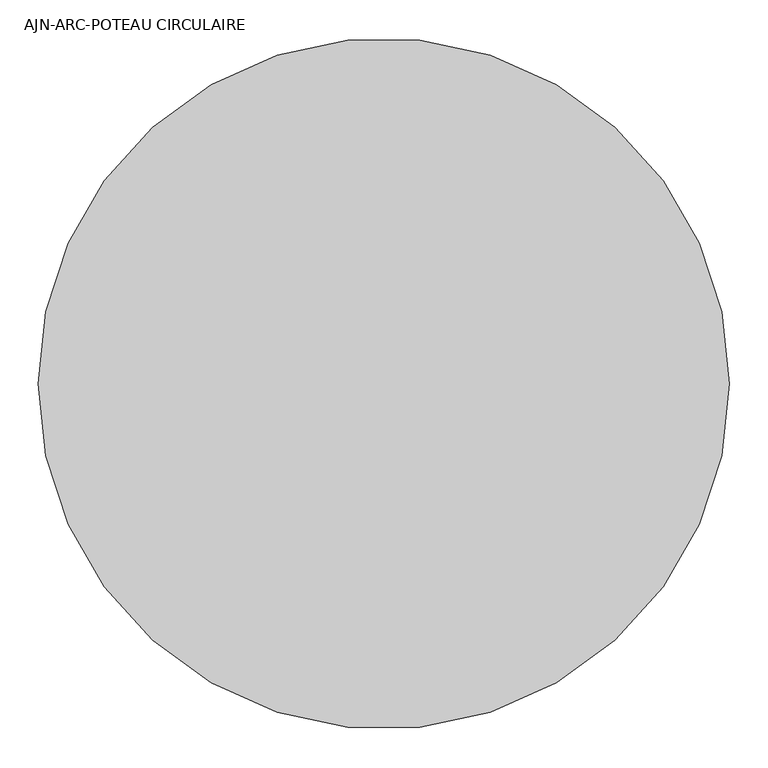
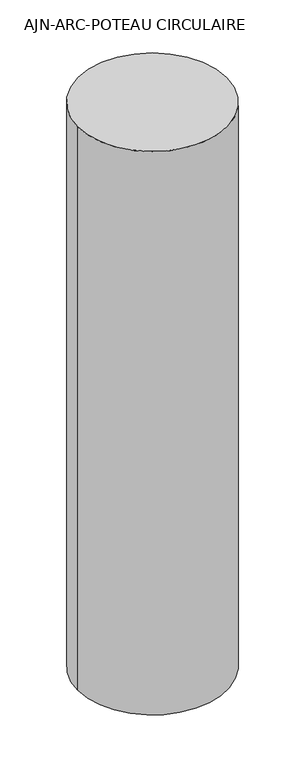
"""IFC4 building model written with IfcOpenShell, lengths in millimetres: column geometry, AJN-ARC-POTEAU CIRCULAIRE : ø90."""

from ifc_helpers import new_model, si_unit, point, frame, origin, origin_2d, place, context, project, spatial, circle_curve, trimmed, segment, composite_curve, outline, extrude, source, transform, mapped, element, save


def ajn_arc_poteau_circulaire_350e3c68(model_context):
    return source(origin(), model_context, "Body", "SweptSolid", [
        extrude(outline(composite_curve([segment(trimmed(circle_curve(origin_2d(), 450.0), [point((-450.0, 0.0))], [point((450.0, 0.0))], False, "CARTESIAN"), True, "CONTINUOUS"), segment(trimmed(circle_curve(origin_2d(), 450.0), [point((450.0, 0.0))], [point((-450.0, 0.0))], False, "CARTESIAN"), True, "CONTINUOUS")], self_intersect=False)), frame((0.0, 0.0, 74799.9999686), z_axis=(0.0, 0.0, 1.0), x_axis=(1.0, 0.0, 0.0)), (0.0, 0.0, 1.0), 3600.0),
    ])


if __name__ == "__main__":
    model = new_model("IFC4")
    model_context = context("Model", 3, world=origin())
    ifc_project = project(units=[si_unit("LENGTHUNIT", "METRE", prefix="MILLI")], contexts=[model_context])
    site = spatial("IfcSite", under=ifc_project)
    building = spatial("IfcBuilding", under=site)
    placement = place(None, origin())
    ajn_arc_poteau_circulaire_shape = ajn_arc_poteau_circulaire_350e3c68(model_context)
    element("IfcColumn", 1, ObjectType="AJN-ARC-POTEAU CIRCULAIRE : ø90", at=placement, inside=building, context=model_context, shape_type="MappedRepresentation", body=[
        mapped(ajn_arc_poteau_circulaire_shape, transform((0.0, 0.0, 0.0), x_axis=(1.0, 0.0, 0.0), y_axis=(0.0, 1.0, 0.0), z_axis=(0.0, 0.0, 1.0))),
    ])
    save(model, "model.ifc")
